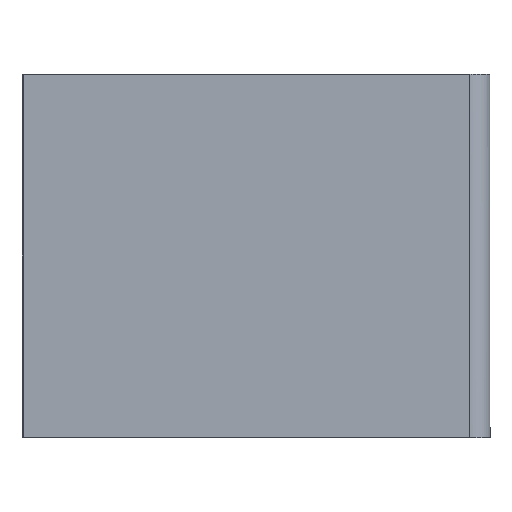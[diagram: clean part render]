
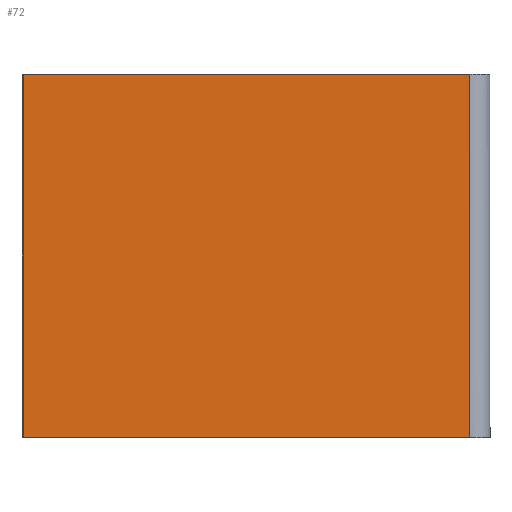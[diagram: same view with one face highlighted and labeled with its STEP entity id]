
A CAD part, left-side view. The second image highlights one B-rep face of the part: STEP entity #72.
In plain terms, the highlighted planar face has unit normal (-1, 0, 0).
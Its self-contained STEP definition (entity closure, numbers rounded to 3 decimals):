
#72=ADVANCED_FACE('',(#140),#1002,.T.);
#140=FACE_OUTER_BOUND('',#210,.T.);
#210=EDGE_LOOP('',(#434,#435,#436,#437));
#434=ORIENTED_EDGE('',*,*,#656,.F.);
#435=ORIENTED_EDGE('',*,*,#648,.F.);
#436=ORIENTED_EDGE('',*,*,#657,.T.);
#437=ORIENTED_EDGE('',*,*,#652,.F.);
#648=EDGE_CURVE('',#930,#932,#831,.T.);
#652=EDGE_CURVE('',#936,#937,#834,.T.);
#656=EDGE_CURVE('',#932,#936,#838,.T.);
#657=EDGE_CURVE('',#930,#937,#839,.T.);
#831=B_SPLINE_CURVE_WITH_KNOTS('',1,(#2090,#2091),.UNSPECIFIED.,.F.,.F.,
(2,2),(0.,70.),.UNSPECIFIED.);
#834=B_SPLINE_CURVE_WITH_KNOTS('',1,(#2099,#2100),.UNSPECIFIED.,.F.,.F.,
(2,2),(0.,70.),.UNSPECIFIED.);
#838=B_SPLINE_CURVE_WITH_KNOTS('',1,(#2107,#2108),.UNSPECIFIED.,.F.,.F.,
(2,2),(0.,86.),.UNSPECIFIED.);
#839=B_SPLINE_CURVE_WITH_KNOTS('',1,(#2109,#2110),.UNSPECIFIED.,.F.,.F.,
(2,2),(0.,86.),.UNSPECIFIED.);
#930=VERTEX_POINT('',#1959);
#932=VERTEX_POINT('',#1961);
#936=VERTEX_POINT('',#1965);
#937=VERTEX_POINT('',#1966);
#1002=PLANE('',#1088);
#1088=AXIS2_PLACEMENT_3D('',#1933,#1132,$);
#1132=DIRECTION('',(-1.,0.,0.));
#1933=CARTESIAN_POINT('',(-78.25,29.636,77.647));
#1959=CARTESIAN_POINT('',(-78.25,38.236,70.647));
#1961=CARTESIAN_POINT('',(-78.25,38.236,0.647));
#1965=CARTESIAN_POINT('',(-78.25,124.236,0.647));
#1966=CARTESIAN_POINT('',(-78.25,124.236,70.647));
#2090=CARTESIAN_POINT('',(-78.25,38.236,70.647));
#2091=CARTESIAN_POINT('',(-78.25,38.236,0.647));
#2099=CARTESIAN_POINT('',(-78.25,124.236,0.647));
#2100=CARTESIAN_POINT('',(-78.25,124.236,70.647));
#2107=CARTESIAN_POINT('',(-78.25,38.236,0.647));
#2108=CARTESIAN_POINT('',(-78.25,124.236,0.647));
#2109=CARTESIAN_POINT('',(-78.25,38.236,70.647));
#2110=CARTESIAN_POINT('',(-78.25,124.236,70.647));
